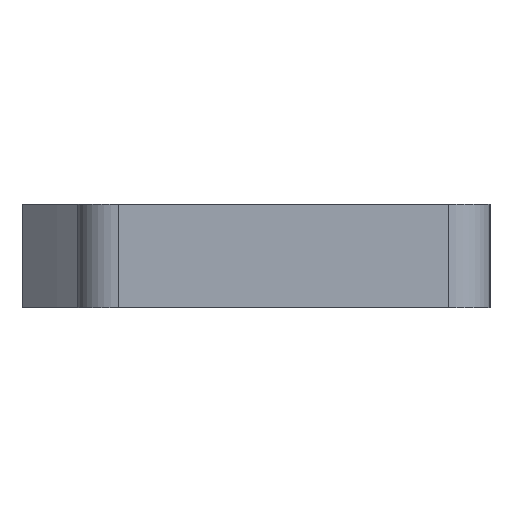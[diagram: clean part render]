
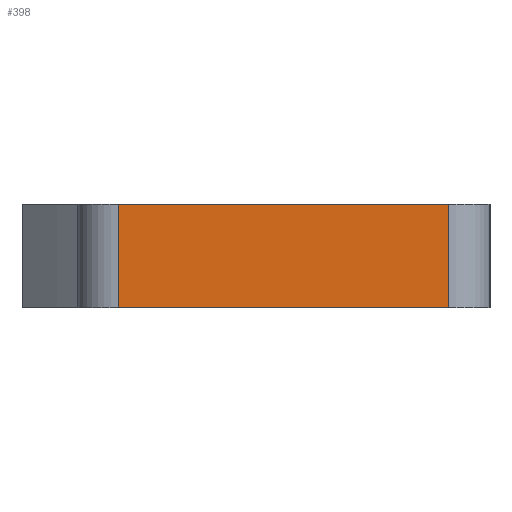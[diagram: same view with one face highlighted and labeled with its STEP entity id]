
A CAD part, left-side view. The second image highlights one B-rep face of the part: STEP entity #398.
In plain terms, the highlighted planar face has unit normal (-1, 0, 0).
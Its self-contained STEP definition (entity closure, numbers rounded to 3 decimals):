
#29=PLANE('',#463);
#47=FACE_OUTER_BOUND('',#71,.T.);
#71=EDGE_LOOP('',(#335,#336,#337,#338));
#88=LINE('',#618,#117);
#93=LINE('',#650,#122);
#98=LINE('',#661,#127);
#106=LINE('',#697,#135);
#117=VECTOR('',#492,10.);
#122=VECTOR('',#525,10.);
#127=VECTOR('',#536,10.);
#135=VECTOR('',#578,10.);
#175=VERTEX_POINT('',#615);
#176=VERTEX_POINT('',#617);
#189=VERTEX_POINT('',#648);
#191=VERTEX_POINT('',#657);
#216=EDGE_CURVE('',#176,#175,#88,.T.);
#232=EDGE_CURVE('',#189,#175,#93,.T.);
#238=EDGE_CURVE('',#176,#191,#98,.T.);
#256=EDGE_CURVE('',#189,#191,#106,.T.);
#335=ORIENTED_EDGE('',*,*,#232,.F.);
#336=ORIENTED_EDGE('',*,*,#256,.T.);
#337=ORIENTED_EDGE('',*,*,#238,.F.);
#338=ORIENTED_EDGE('',*,*,#216,.T.);
#398=ADVANCED_FACE('',(#47),#29,.T.);
#463=AXIS2_PLACEMENT_3D('',#696,#576,#577);
#492=DIRECTION('',(0.,-1.,0.));
#525=DIRECTION('',(0.,0.,-1.));
#536=DIRECTION('',(0.,0.,1.));
#576=DIRECTION('center_axis',(-1.,0.,0.));
#577=DIRECTION('ref_axis',(0.,0.,1.));
#578=DIRECTION('',(0.,1.,0.));
#615=CARTESIAN_POINT('',(0.,2.,0.));
#617=CARTESIAN_POINT('',(0.,18.,0.));
#618=CARTESIAN_POINT('',(0.,20.,0.));
#648=CARTESIAN_POINT('',(0.,2.,5.));
#650=CARTESIAN_POINT('',(0.,2.,0.));
#657=CARTESIAN_POINT('',(0.,18.,5.));
#661=CARTESIAN_POINT('',(0.,18.,0.));
#696=CARTESIAN_POINT('Origin',(0.,0.,0.));
#697=CARTESIAN_POINT('',(0.,20.,5.));
